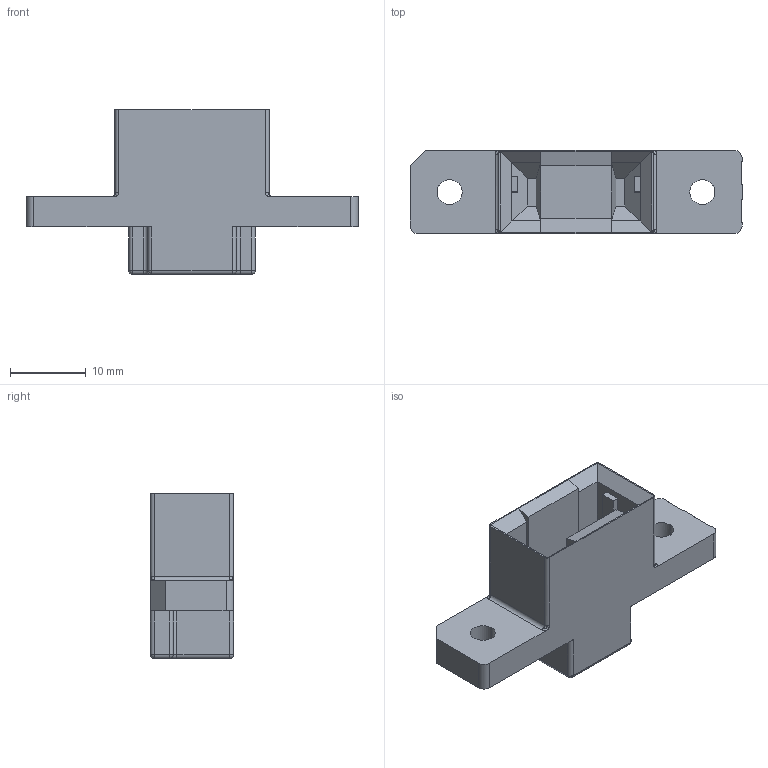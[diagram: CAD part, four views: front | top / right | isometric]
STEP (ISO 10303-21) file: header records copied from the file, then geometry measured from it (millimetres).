
FILE_DESCRIPTION(('CoCreate Modeling STEP Export'),'2;1');
FILE_NAME('P3C985_FAS12-012.stp','2017-07-28T16:28:24',(''),(''),'CoCreate Modeling STEP processor for AP214 (Solid Model)','CoCreate Modeling 17.0B 09-Oct-2010 (C) Parametric Technology GmbH','');
FILE_SCHEMA(('AUTOMOTIVE_DESIGN { 1 0 10303 214 1 1 1 1 }'));
Length unit declared in the file: millimetre
Products named in the file (2): FAS12-012
Assembly tree (1 placements, depth 2):
  FAS12-012
    FAS12-012
Bounding box: 43.9 x 11 x 21.8 mm (x, y, z)
Volume: 3798.8 mm3; surface area: 3134.3 mm2
Topology: 1 solids, 1 shells, 295 faces, 798 edges, 512 vertices
Faces by surface type: plane 246, cylinder 29, bspline 12, sphere 6, torus 2
Entity records: 9565 total; most frequent: CARTESIAN_POINT 2315, ORIENTED_EDGE 1584, DIRECTION 1334, EDGE_CURVE 792, VECTOR 696, LINE 696, VERTEX_POINT 512, AXIS2_PLACEMENT_3D 319
